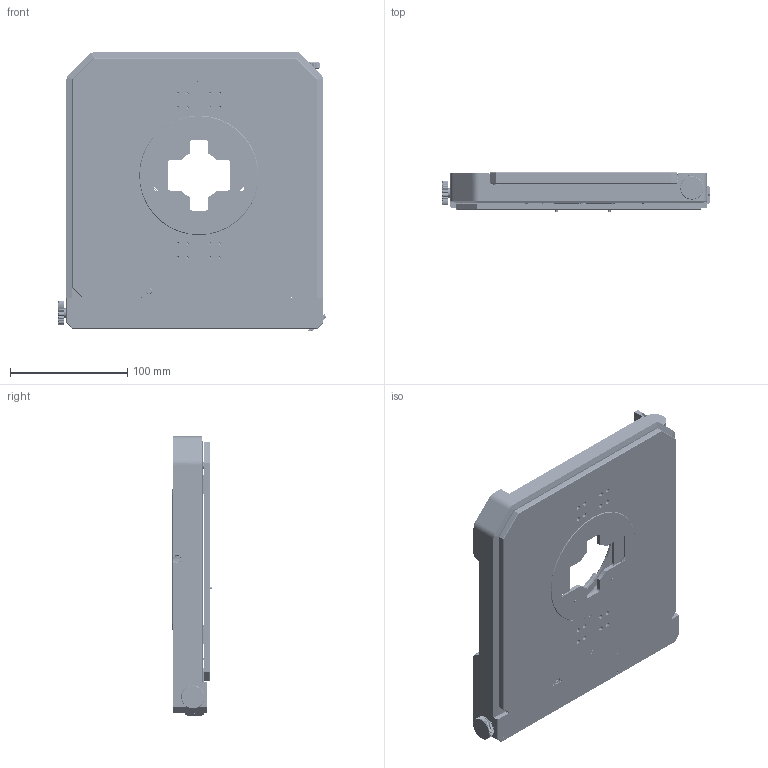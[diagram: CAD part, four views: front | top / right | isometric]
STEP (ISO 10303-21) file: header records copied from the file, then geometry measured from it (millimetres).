
FILE_DESCRIPTION((''),'2;1');
FILE_NAME('AS8080-XY_ASM','2026-02-03T15:37:51',('R&D'),(''),'CREO PARAMETRIC BY PTC INC, 2021063','CREO PARAMETRIC BY PTC INC, 2021063','');
FILE_SCHEMA(('CONFIG_CONTROL_DESIGN'));
Products named in the file (61): AS8080-XY-A2; AS8080-XY-A5; AS8080-XY-A6; AS8080-XY-A4_ASM; AS8080-XY-A3_ASM; AS8080-XY-A9; AS8080-XY-B1; AS8080-XY-A8_ASM; AS8080-XY-A7_ASM; AS8080-XY-B3; AS8080-XY-B5; AS8080-XY-B4_ASM; AS8080-XY-B9; AS8080-XY-C1; AS8080-XY-C2; AS8080-XY-C3; AS8080-XY-G3; AS8080-XY-G4; AS8080-XY-G5; AS8080-XY-G2_ASM; AS8080-XY-G1; AS8080-XY-B2_ASM; AS8080-XY-C5; AS8080-XY-C6_ASM; AS8080-XY-D1; AS8080-XY-D2; AS8080-XY-D3; AS8080-XY-D4; AS8080-XY-F9; AS8080-XY-C4_ASM; AS8080-XY-D5; AS8080-XY-D6; AS8080-XY-D7; AS8080-XY-D8; ISO14579-M2X4-8_8; ISO7045-M2X3-4_8; AS8080-XY-D9; AS8080-XY-E1; AS8080-XY-E3; AS8080-XY-E4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
Assembly tree (137 placements, depth 6):
  AS8080-XY_ASM
    AS8080-XY-A1_ASM
      AS8080-XY-A2
      AS8080-XY-A3_ASM  x2
        AS8080-XY-A4_ASM
          AS8080-XY-A5
          AS8080-XY-A6  x2
      AS8080-XY-A7_ASM  x2
        AS8080-XY-A8_ASM
          AS8080-XY-A9
          AS8080-XY-B1  x2
      AS8080-XY-B2_ASM
        AS8080-XY-B3
        AS8080-XY-B4_ASM
          AS8080-XY-B5
        AS8080-XY-B9
        AS8080-XY-C1  x2
        AS8080-XY-C2
        AS8080-XY-C3
        AS8080-XY-G2_ASM
          AS8080-XY-G3
          AS8080-XY-G4
          AS8080-XY-G5
        AS8080-XY-G1
      AS8080-XY-C4_ASM
        AS8080-XY-C5
        AS8080-XY-C6_ASM
          AS8080-XY-B4_ASM
            AS8080-XY-B5
        AS8080-XY-D1
        AS8080-XY-D2  x2
        AS8080-XY-D3
        AS8080-XY-D4
        AS8080-XY-G2_ASM
          AS8080-XY-G3
          AS8080-XY-G4
          AS8080-XY-G5
        AS8080-XY-F9
      AS8080-XY-D5  x2
      AS8080-XY-D6
      AS8080-XY-D7
      AS8080-XY-D8  x4
      ISO14579-M2X4-8_8  x22
      ISO7045-M2X3-4_8  x4
      AS8080-XY-D9  x2
      AS8080-XY-E1  x2
      AS8080-XY-E2_ASM
        AS8080-XY-E3
        AS8080-XY-E4  x2
      AS8080-XY-E6_ASM
        AS8080-XY-E7
    AS8080-XY-E9_ASM
      AS8080-XY-F1
      AS8080-XY-F2
      ISO14579-M3X5-8_8
      AS8080-XY-F3
      AS8080-XY-E9_01_ASM
        AS8080-XY-F4
        AS8080-XY-E9_01-1
        AS8080-XY-E9_01-2  x2
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Bounding box: 228.61 x 34.05 x 238.4 mm (x, y, z)
Volume: 709451.3 mm3; surface area: 389776.6 mm2
Topology: 124 solids, 124 shells, 8679 faces, 22938 edges, 14848 vertices
Faces by surface type: plane 3887, cylinder 3537, cone 678, bspline 333, torus 228, sphere 16
Entity records: 150733 total; most frequent: CARTESIAN_POINT 53009, ORIENTED_EDGE 20416, DIRECTION 19680, EDGE_CURVE 10208, AXIS2_PLACEMENT_3D 6912, VERTEX_POINT 6619, VECTOR 5856, LINE 5856
